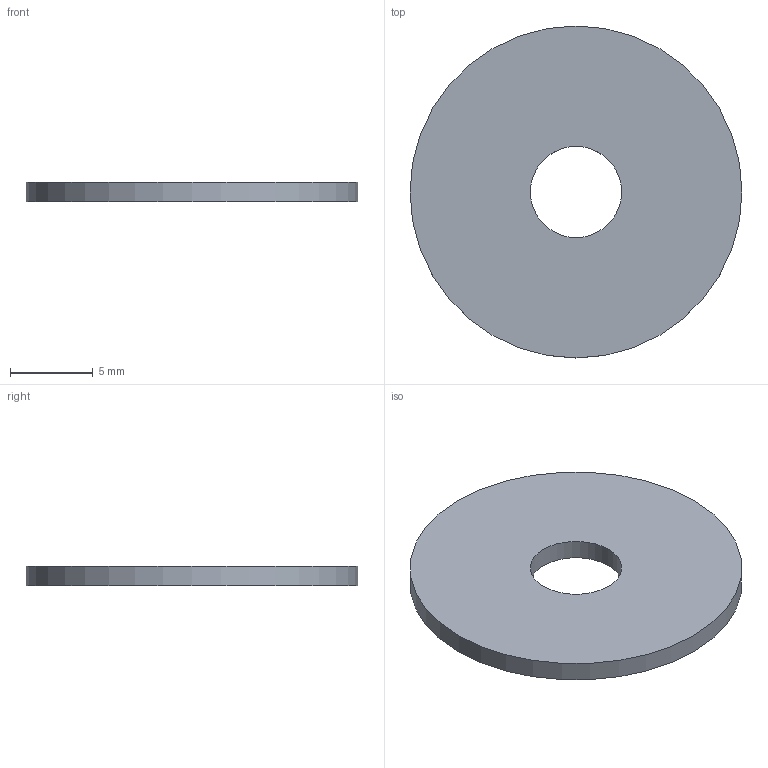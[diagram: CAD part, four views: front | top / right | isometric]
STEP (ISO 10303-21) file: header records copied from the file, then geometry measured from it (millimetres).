
FILE_DESCRIPTION(/* description */ (''),/* implementation_level */ '2;1');
FILE_NAME(/* name */ '',/* time_stamp */ '2024-09-10T16:27:27+09:00',/* author */ ('jhkim'),/* organization */ (''),/* preprocessor_version */ 'ST-DEVELOPER v20',/* originating_system */ 'Autodesk Inventor 2025',/* authorisation */ '');
FILE_SCHEMA (('AUTOMOTIVE_DESIGN { 1 0 10303 214 3 1 1 }'));
Length unit declared in the file: millimetre
Products named in the file (1): 엔드캡
Bounding box: 20 x 20 x 1.2 mm (x, y, z)
Volume: 348.5 mm3; surface area: 676.9 mm2
Topology: 1 solids, 1 shells, 4 faces, 6 edges, 4 vertices
Faces by surface type: cylinder 2, plane 2
Full cylindrical faces by diameter (mm): 5.5 x1, 20 x1
Entity records: 141 total; most frequent: DIRECTION 20, CARTESIAN_POINT 15, ORIENTED_EDGE 12, AXIS2_PLACEMENT_3D 9, EDGE_LOOP 6, EDGE_CURVE 6, FACE_OUTER_BOUND 4, CIRCLE 4
